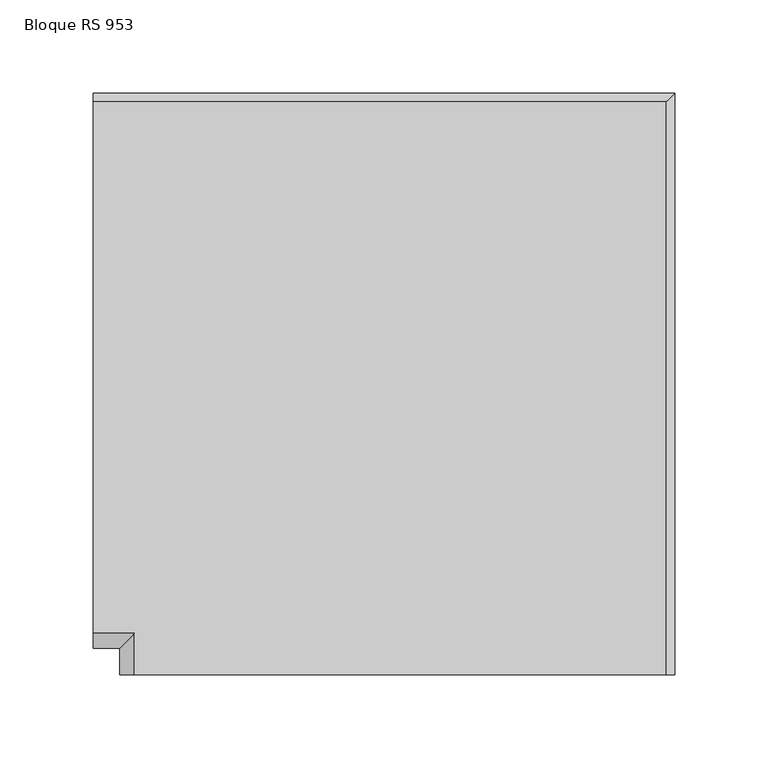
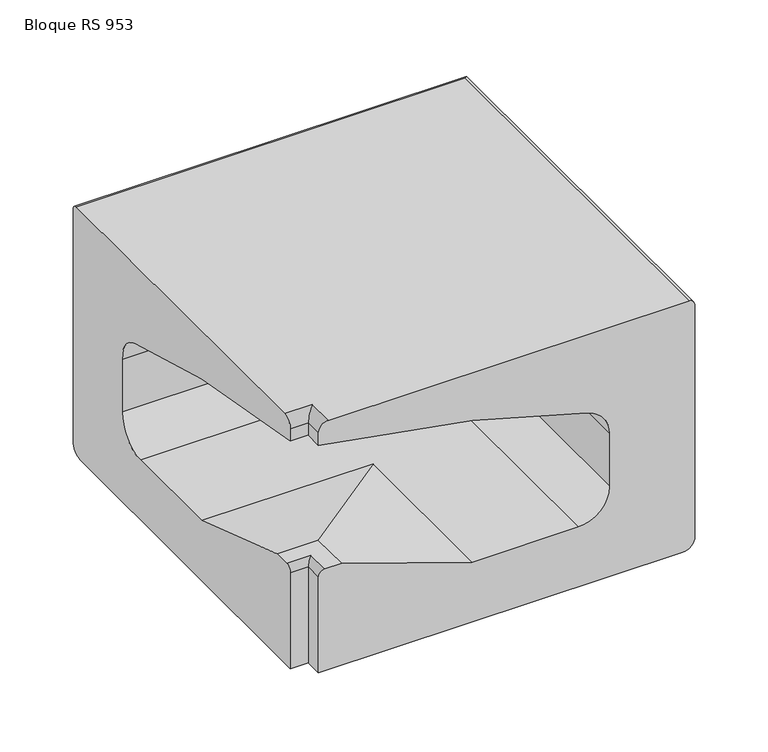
"""IFC4 building model written with IfcOpenShell, lengths in millimetres: proxy geometry, ROSA GRES_RS 953 : Bloque RS 953."""

from ifc_helpers import new_model, si_unit, frame, origin, place, context, project, spatial, polyline, circle_curve, ellipse_curve, source, transform, mapped, element, save
from ifc_brep_helpers import plane_surface, cylinder_surface, revolved_surface, advanced_brep


def bloque_rs_953_bce54fbe(model_context):
    return source(origin(), model_context, "Body", "AdvancedBrep", [
        advanced_brep(
        [(-297.2203405, -283.2035155, 9.9999985), (-297.2203405, -283.2035155, 90.0094288), (-297.2203405, -278.2035155, 95.0094288), (-297.2203405, -264.9999903, 95.0094288), (-297.2203405, -161.9275514, 60.0838698), (-297.2203405, -78.1435822, 60.0838698), (-297.2203405, -53.2035155, 85.0838698), (-297.2203405, -53.2035155, 128.9393377), (-297.2203405, -71.2972058, 153.0272691), (-297.2203405, -161.7240262, 178.287395), (-297.2203405, -283.2035251, 200.0838698), (-297.2203405, -283.2035251, 210.2775772), (-297.2203405, -275.2035251, 218.2775772), (-297.2203405, 9.3929932, 218.2775772), (-297.2203405, 14.000004, 213.3021169), (-297.2203405, 14.000004, 20.0000007), (-297.2203405, 4.0000018, 9.9999985), (-283.2035155, -297.2203405, 9.9999985), (4.0000018, -297.2203405, 9.9999985), (14.000004, -297.2203405, 20.0000007), (14.000004, -297.2203405, 213.3021169), (9.3929932, -297.2203405, 218.2775772), (-275.2035251, -297.2203405, 218.2775772), (-283.2035251, -297.2203405, 210.2775772), (-283.2035251, -297.2203405, 200.0838698), (-161.7240262, -297.2203405, 178.287395), (-71.2972058, -297.2203405, 153.0272691), (-53.2035155, -297.2203405, 128.9393377), (-53.2035155, -297.2203405, 85.0838698), (-78.1435822, -297.2203405, 60.0838698), (-161.9275514, -297.2203405, 60.0838698), (-264.9999903, -297.2203405, 95.0094288), (-278.2035155, -297.2203405, 95.0094288), (-283.2035155, -297.2203405, 90.0094288), (14.000004, 14.000004, 213.3021169), (14.000004, 14.000004, 20.0000007), (4.0000018, 4.0000018, 9.9999985), (-283.2035155, -283.2035155, 9.9999985), (-283.2035155, -283.2035155, 90.0094288), (-278.2035155, -278.2035155, 95.0094288), (-264.9999903, -264.9999903, 95.0094288), (-161.9275514, -161.9275514, 60.0838698), (-78.1435822, -78.1435822, 60.0838698), (-53.2035155, -53.2035155, 85.0838698), (-53.2035155, -53.2035155, 128.9393377), (-71.2972058, -71.2972058, 153.0272691), (-161.7240262, -161.7240262, 178.287395), (-283.2035251, -283.2035251, 200.0838698), (-283.2035251, -283.2035251, 210.2775772), (-275.2035251, -275.2035251, 218.2775772), (9.3929932, 9.3929932, 218.2775772)],
        [
            (0, 1),
            (1, 2, circle_curve(frame((-297.2203405, -278.2035155, 90.0094288), z_axis=(-1.0, 0.0, 0.0), x_axis=(0.0, 1.0, 0.0)), 5.0)),
            (2, 3),
            (3, 4),
            (4, 5),
            (5, 6, circle_curve(frame((-297.2203405, -77.9574027, 84.8382752), z_axis=(1.0, 0.0, 0.0), x_axis=(0.0, 1.0, 0.0)), 24.7551055)),
            (6, 7),
            (7, 8, circle_curve(frame((-297.2203405, -77.9574027, 129.1849323), z_axis=(1.0, 0.0, 0.0), x_axis=(0.0, 1.0, 0.0)), 24.7551055)),
            (8, 9),
            (9, 10),
            (10, 11),
            (11, 12, circle_curve(frame((-297.2203405, -275.2035251, 210.2775772), z_axis=(-1.0, 0.0, 0.0), x_axis=(0.0, 1.0, 0.0)), 8.0)),
            (12, 13),
            (13, 14, circle_curve(frame((-297.2203405, 9.0098102, 213.3021169), z_axis=(-1.0, 0.0, 0.0), x_axis=(0.0, 1.0, 0.0)), 4.9901938)),
            (14, 15),
            (15, 16, circle_curve(frame((-297.2203405, 4.0000018, 20.0000007), z_axis=(-1.0, 0.0, 0.0), x_axis=(0.0, 1.0, 0.0)), 10.0000022)),
            (16, 0),
            (17, 18),
            (18, 19, circle_curve(frame((4.0000018, -297.2203405, 20.0000007), z_axis=(0.0, -1.0, 0.0), x_axis=(1.0, 0.0, 0.0)), 10.0000022)),
            (19, 20),
            (20, 21, circle_curve(frame((9.0098102, -297.2203405, 213.3021169), z_axis=(0.0, -1.0, 0.0), x_axis=(1.0, 0.0, 0.0)), 4.9901938)),
            (21, 22),
            (22, 23, circle_curve(frame((-275.2035251, -297.2203405, 210.2775772), z_axis=(0.0, -1.0, 0.0), x_axis=(1.0, 0.0, 0.0)), 8.0)),
            (23, 24),
            (24, 25),
            (25, 26),
            (26, 27, circle_curve(frame((-77.9574027, -297.2203405, 129.1849323), z_axis=(0.0, 1.0, 0.0), x_axis=(1.0, 0.0, 0.0)), 24.7551055)),
            (27, 28),
            (28, 29, circle_curve(frame((-77.9574027, -297.2203405, 84.8382752), z_axis=(0.0, 1.0, 0.0), x_axis=(1.0, 0.0, 0.0)), 24.7551055)),
            (29, 30),
            (30, 31),
            (31, 32),
            (32, 33, circle_curve(frame((-278.2035155, -297.2203405, 90.0094288), z_axis=(0.0, -1.0, 0.0), x_axis=(1.0, 0.0, 0.0)), 5.0)),
            (33, 17),
            (14, 34),
            (34, 35),
            (35, 15),
            (16, 36),
            (36, 18),
            (17, 37),
            (37, 0),
            (34, 20),
            (19, 35),
            (37, 38),
            (38, 1),
            (38, 39, ellipse_curve(frame((-278.2035155, -278.2035155, 90.0094288), z_axis=(-0.7071067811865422, 0.7071067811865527, 0.0), x_axis=(-0.7071067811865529, -0.7071067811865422, 0.0)), 7.0710678, 5.0)),
            (39, 2),
            (39, 32),
            (31, 40),
            (40, 3),
            (40, 41),
            (41, 4),
            (41, 30),
            (29, 42),
            (42, 5),
            (42, 43, ellipse_curve(frame((-77.9574027, -77.9574027, 84.8382752), z_axis=(0.7071067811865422, -0.7071067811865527, 0.0), x_axis=(0.7071067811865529, 0.7071067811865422, 0.0)), 35.0090059, 24.7551055)),
            (43, 6),
            (43, 44),
            (44, 7),
            (44, 45, ellipse_curve(frame((-77.9574027, -77.9574027, 129.1849323), z_axis=(0.7071067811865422, -0.7071067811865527, 0.0), x_axis=(0.7071067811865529, 0.7071067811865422, 0.0)), 35.0090059, 24.7551055)),
            (45, 8),
            (45, 46),
            (46, 9),
            (46, 47),
            (47, 10),
            (47, 48),
            (48, 11),
            (48, 49, ellipse_curve(frame((-275.2035251, -275.2035251, 210.2775772), z_axis=(-0.7071067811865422, 0.7071067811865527, 0.0), x_axis=(-0.7071067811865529, -0.7071067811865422, 0.0)), 11.3137085, 8.0)),
            (49, 12),
            (49, 22),
            (21, 50),
            (50, 13),
            (50, 34, ellipse_curve(frame((9.0098102, 9.0098102, 213.3021169), z_axis=(-0.7071067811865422, 0.7071067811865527, 0.0), x_axis=(-0.7071067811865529, -0.7071067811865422, 0.0)), 7.0571998, 4.9901938)),
            (35, 36, ellipse_curve(frame((4.0000018, 4.0000018, 20.0000007), z_axis=(-0.7071067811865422, 0.7071067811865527, 0.0), x_axis=(-0.7071067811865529, -0.7071067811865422, 0.0)), 14.1421387, 10.0000022)),
            (33, 38),
            (28, 43),
            (27, 44),
            (26, 45),
            (25, 46),
            (24, 47),
            (23, 48),
        ],
        [
            plane_surface(frame((-297.2203405, 0.4796595, 0.0), z_axis=(-1.0, 0.0, 0.0), x_axis=(0.0, 0.0, 1.0))),
            plane_surface(frame((0.4796595, -297.2203405, 0.0), z_axis=(0.0, -1.0, 0.0), x_axis=(0.0, 0.0, 1.0))),
            plane_surface(frame((-297.2203405, 14.000004, 213.3021169), z_axis=(0.0, 1.0, 0.0), x_axis=(1.0, 0.0, 0.0))),
            plane_surface(frame((-297.2203405, 4.0000018, 9.9999985), z_axis=(0.0, 0.0, -1.0), x_axis=(1.0, 0.0, 0.0))),
            plane_surface(frame((14.000004, 14.000004, 213.3021169), z_axis=(1.0, 0.0, 0.0), x_axis=(0.0, -1.0, 0.0))),
            plane_surface(frame((-297.2203405, -283.2035155, 9.9999985), z_axis=(0.0, -1.0, 0.0), x_axis=(1.0, 0.0, 0.0))),
            cylinder_surface(frame((-297.2203405, -278.2035155, 90.0094288), z_axis=(-1.0, 0.0, 0.0), x_axis=(0.0, 1.0, 0.0)), 5.0),
            plane_surface(frame((-297.2203405, -278.2035155, 95.0094288), z_axis=(0.0, 0.0, 1.0), x_axis=(1.0, 0.0, 0.0))),
            plane_surface(frame((-297.2203405, -264.9999903, 95.0094288), z_axis=(0.0, 0.3209218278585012, 0.9471056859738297), x_axis=(1.0, 0.0, 0.0))),
            plane_surface(frame((-297.2203405, -161.9275514, 60.0838698), z_axis=(0.0, 0.0, 1.0), x_axis=(1.0, 0.0, 0.0))),
            revolved_surface(polyline([(-53.20229722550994, -53.202297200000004, 84.8382752), (-297.2203405, -53.202297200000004, 84.8382752)]), (-297.2203405, -77.9574027, 84.8382752), (1.0, 0.0, 0.0)),
            plane_surface(frame((-297.2203405, -53.2035155, 85.0838698), z_axis=(0.0, -1.0, 0.0), x_axis=(1.0, 0.0, 0.0))),
            revolved_surface(polyline([(-53.20229722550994, -53.202297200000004, 129.1849323), (-297.2203405, -53.202297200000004, 129.1849323)]), (-297.2203405, -77.9574027, 129.1849323), (1.0, 0.0, 0.0)),
            plane_surface(frame((-297.2203405, -71.2972058, 153.0272691), z_axis=(0.0, -0.2690433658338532, -0.9631280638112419), x_axis=(1.0, 0.0, 0.0))),
            plane_surface(frame((-297.2203405, -161.7240262, 178.287395), z_axis=(0.0, -0.17660489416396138, -0.9842818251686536), x_axis=(1.0, 0.0, 0.0))),
            plane_surface(frame((-297.2203405, -283.2035251, 200.0838698), z_axis=(0.0, -1.0, 0.0), x_axis=(1.0, 0.0, 0.0))),
            cylinder_surface(frame((-297.2203405, -275.2035251, 210.2775772), z_axis=(-1.0, 0.0, 0.0), x_axis=(0.0, 1.0, 0.0)), 8.0),
            plane_surface(frame((-297.2203405, -275.2035251, 218.2775772), z_axis=(0.0, 0.0, 1.0), x_axis=(1.0, 0.0, 0.0))),
            cylinder_surface(frame((-297.2203405, 9.0098102, 213.3021169), z_axis=(-1.0, 0.0, 0.0), x_axis=(0.0, 1.0, 0.0)), 4.9901938),
            cylinder_surface(frame((-297.2203405, 4.0000018, 20.0000007), z_axis=(-1.0, 0.0, 0.0), x_axis=(0.0, 1.0, 0.0)), 10.0000022),
            plane_surface(frame((-283.2035155, -283.2035155, 9.9999985), z_axis=(-1.0, 0.0, 0.0), x_axis=(0.0, -1.0, 0.0))),
            cylinder_surface(frame((-278.2035155, 0.4796595, 90.0094288), z_axis=(0.0, 1.0, 0.0), x_axis=(1.0, 0.0, 0.0)), 5.0),
            plane_surface(frame((-264.9999903, -264.9999903, 95.0094288), z_axis=(0.3209218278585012, 0.0, 0.9471056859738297), x_axis=(0.0, -1.0, 0.0))),
            revolved_surface(polyline([(-53.202297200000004, -297.2203405, 84.8382752), (-53.202297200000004, -53.202297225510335, 84.8382752)]), (-77.9574027, 0.4796595, 84.8382752), (0.0, -1.0, 0.0)),
            plane_surface(frame((-53.2035155, -53.2035155, 85.0838698), z_axis=(-1.0, 0.0, 0.0), x_axis=(0.0, -1.0, 0.0))),
            revolved_surface(polyline([(-53.202297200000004, -297.2203405, 129.1849323), (-53.202297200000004, -53.202297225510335, 129.1849323)]), (-77.9574027, 0.4796595, 129.1849323), (0.0, -1.0, 0.0)),
            plane_surface(frame((-71.2972058, -71.2972058, 153.0272691), z_axis=(-0.2690433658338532, 0.0, -0.9631280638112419), x_axis=(0.0, -1.0, 0.0))),
            plane_surface(frame((-161.7240262, -161.7240262, 178.287395), z_axis=(-0.17660489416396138, 0.0, -0.9842818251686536), x_axis=(0.0, -1.0, 0.0))),
            plane_surface(frame((-283.2035251, -283.2035251, 200.0838698), z_axis=(-1.0, 0.0, 0.0), x_axis=(0.0, -1.0, 0.0))),
            cylinder_surface(frame((-275.2035251, 0.4796595, 210.2775772), z_axis=(0.0, 1.0, 0.0), x_axis=(1.0, 0.0, 0.0)), 8.0),
            cylinder_surface(frame((9.0098102, 0.4796595, 213.3021169), z_axis=(0.0, 1.0, 0.0), x_axis=(1.0, 0.0, 0.0)), 4.9901938),
            cylinder_surface(frame((4.0000018, 0.4796595, 20.0000007), z_axis=(0.0, 1.0, 0.0), x_axis=(1.0, 0.0, 0.0)), 10.0000022),
        ],
        [
            (0, [[1, 2, 3, 4, 5, 6, 7, 8, 9, 10, 11, 12, 13, 14, 15, 16, 17]]),
            (1, [[18, 19, 20, 21, 22, 23, 24, 25, 26, 27, 28, 29, 30, 31, 32, 33, 34]]),
            (2, [[-15, 35, 36, 37]]),
            (3, [[-17, 38, 39, -18, 40, 41]]),
            (4, [[-36, 42, -20, 43]]),
            (5, [[-1, -41, 44, 45]]),
            (6, [[-2, -45, 46, 47]]),
            (7, [[-3, -47, 48, -32, 49, 50]]),
            (8, [[-4, -50, 51, 52]]),
            (9, [[-5, -52, 53, -30, 54, 55]]),
            (10, [[-6, -55, 56, 57]]),
            (11, [[-7, -57, 58, 59]]),
            (12, [[-8, -59, 60, 61]]),
            (13, [[-9, -61, 62, 63]]),
            (14, [[-10, -63, 64, 65]]),
            (15, [[-11, -65, 66, 67]]),
            (16, [[-12, -67, 68, 69]]),
            (17, [[-13, -69, 70, -22, 71, 72]]),
            (18, [[-14, -72, 73, -35]]),
            (19, [[-16, -37, 74, -38]]),
            (20, [[-44, -40, -34, 75]]),
            (21, [[-46, -75, -33, -48]]),
            (22, [[-51, -49, -31, -53]]),
            (23, [[-56, -54, -29, 76]]),
            (24, [[-58, -76, -28, 77]]),
            (25, [[-60, -77, -27, 78]]),
            (26, [[-62, -78, -26, 79]]),
            (27, [[-64, -79, -25, 80]]),
            (28, [[-66, -80, -24, 81]]),
            (29, [[-68, -81, -23, -70]]),
            (30, [[-73, -71, -21, -42]]),
            (31, [[-74, -43, -19, -39]]),
        ],
    ),
    ])


if __name__ == "__main__":
    model = new_model("IFC4")
    model_context = context("Model", 3, world=origin())
    ifc_project = project(units=[si_unit("LENGTHUNIT", "METRE", prefix="MILLI")], contexts=[model_context])
    site = spatial("IfcSite", under=ifc_project)
    building = spatial("IfcBuilding", under=site)
    placement = place(None, origin())
    bloque_rs_953_shape = bloque_rs_953_bce54fbe(model_context)
    element("IfcBuildingElementProxy", 1, Name="ROSA GRES_RS 953 : Bloque RS 953", ObjectType="ROSA GRES_RS 953 : Bloque RS 953", at=placement, inside=building, context=model_context, shape_type="MappedRepresentation", body=[
        mapped(bloque_rs_953_shape, transform((0.0, 0.0, 0.0), x_axis=(1.0, 0.0, 0.0), y_axis=(0.0, 1.0, 0.0), z_axis=(0.0, 0.0, 1.0))),
    ])
    save(model, "model.ifc")
